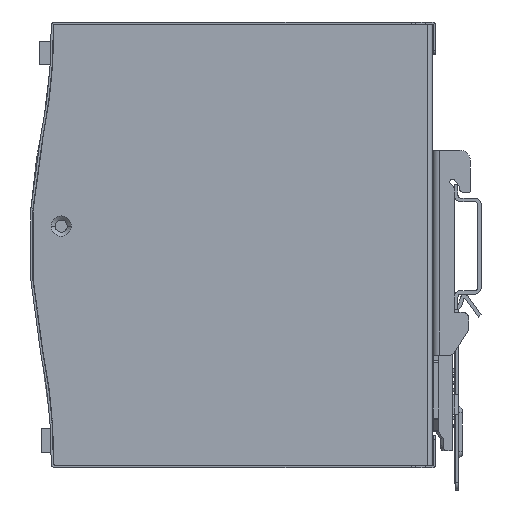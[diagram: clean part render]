
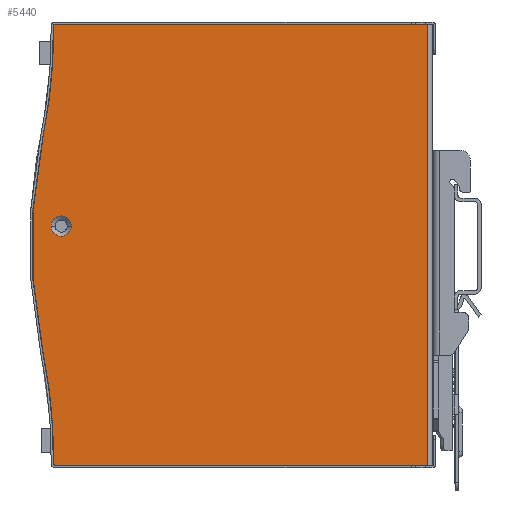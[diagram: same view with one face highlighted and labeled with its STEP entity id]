
A CAD part, front view. The second image highlights one B-rep face of the part: STEP entity #5440.
In plain terms, the highlighted planar face has unit normal (0, -1, 0).
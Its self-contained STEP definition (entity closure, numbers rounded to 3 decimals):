
#3930=CARTESIAN_POINT('',(95.953,13.236,-50.));
#3940=VERTEX_POINT('',#3930);
#3970=CARTESIAN_POINT('',(95.953,13.236,74.));
#3980=DIRECTION('',(0.,0.,-1.));
#3990=VECTOR('',#3980,124.);
#4000=LINE('',#3970,#3990);
#4010=CARTESIAN_POINT('',(95.953,13.236,74.));
#4020=VERTEX_POINT('',#4010);
#4030=EDGE_CURVE('',#4020,#3940,#4000,.T.);
#4620=CARTESIAN_POINT('',(-13.667,13.236,0.));
#4630=DIRECTION('',(0.,-1.,0.));
#4640=DIRECTION('',(0.,0.,-1.));
#4650=AXIS2_PLACEMENT_3D('',#4620,#4630,#4640);
#4660=PLANE('',#4650);
#4670=CARTESIAN_POINT('',(-8.439,13.236,-49.5));
#4680=DIRECTION('',(0.,-1.,0.));
#4690=DIRECTION('',(-1.,0.,0.));
#4700=AXIS2_PLACEMENT_3D('',#4670,#4680,#4690);
#4710=CIRCLE('',#4700,0.5);
#4720=CARTESIAN_POINT('',(-8.939,13.236,-49.495))
;
#4730=VERTEX_POINT('',#4720);
#4740=CARTESIAN_POINT('',(-8.439,13.236,-50.));
#4750=VERTEX_POINT('',#4740);
#4760=EDGE_CURVE('',#4730,#4750,#4710,.T.);
#4770=ORIENTED_EDGE('',*,*,#4760,.T.);
#4780=CARTESIAN_POINT('',(-158.932,13.236,-48.019)
);
#4790=DIRECTION('',(0.,-1.,0.));
#4800=DIRECTION('',(0.,0.,-1.));
#4810=AXIS2_PLACEMENT_3D('',#4780,#4790,#4800);
#4820=CIRCLE('',#4810,150.);
#4830=CARTESIAN_POINT('',(-11.964,13.236,-18.01)
);
#4840=VERTEX_POINT('',#4830);
#4850=EDGE_CURVE('',#4730,#4840,#4820,.T.);
#4860=ORIENTED_EDGE('',*,*,#4850,.F.);
#4870=CARTESIAN_POINT('',(135.003,13.236,12.));
#4880=DIRECTION('',(0.,-1.,0.));
#4890=DIRECTION('',(0.,0.,-1.));
#4900=AXIS2_PLACEMENT_3D('',#4870,#4880,#4890);
#4910=CIRCLE('',#4900,150.);
#4920=CARTESIAN_POINT('',(-11.964,13.236,42.01));
#4930=VERTEX_POINT('',#4920);
#4940=EDGE_CURVE('',#4930,#4840,#4910,.T.);
#4950=ORIENTED_EDGE('',*,*,#4940,.T.);
#4960=CARTESIAN_POINT('',(-158.932,13.236,72.019))
;
#4970=DIRECTION('',(0.,-1.,0.));
#4980=DIRECTION('',(0.,0.,-1.));
#4990=AXIS2_PLACEMENT_3D('',#4960,#4970,#4980);
#5000=CIRCLE('',#4990,150.);
#5010=CARTESIAN_POINT('',(-8.939,13.236,73.495));
#5020=VERTEX_POINT('',#5010);
#5030=EDGE_CURVE('',#4930,#5020,#5000,.T.);
#5040=ORIENTED_EDGE('',*,*,#5030,.F.);
#5050=CARTESIAN_POINT('',(-8.439,13.236,73.5));
#5060=DIRECTION('',(0.,-1.,0.));
#5070=DIRECTION('',(-1.,0.,0.));
#5080=AXIS2_PLACEMENT_3D('',#5050,#5060,#5070);
#5090=CIRCLE('',#5080,0.5);
#5100=CARTESIAN_POINT('',(-8.439,13.236,74.));
#5110=VERTEX_POINT('',#5100);
#5120=EDGE_CURVE('',#5110,#5020,#5090,.T.);
#5130=ORIENTED_EDGE('',*,*,#5120,.T.);
#5140=CARTESIAN_POINT('',(95.953,13.236,74.));
#5150=DIRECTION('',(-1.,0.,0.));
#5160=VECTOR('',#5150,104.392);
#5170=LINE('',#5140,#5160);
#5180=EDGE_CURVE('',#4020,#5110,#5170,.T.);
#5190=ORIENTED_EDGE('',*,*,#5180,.T.);
#5200=ORIENTED_EDGE('',*,*,#4030,.F.);
#5210=CARTESIAN_POINT('',(95.953,13.236,-50.));
#5220=DIRECTION('',(-1.,0.,0.));
#5230=VECTOR('',#5220,104.392);
#5240=LINE('',#5210,#5230);
#5250=EDGE_CURVE('',#3940,#4750,#5240,.T.);
#5260=ORIENTED_EDGE('',*,*,#5250,.F.);
#5270=EDGE_LOOP('',(#5260,#5200,#5190,#5130,#5040,#4950,#4860,#4770));
#5280=FACE_OUTER_BOUND('',#5270,.T.);
#5290=CARTESIAN_POINT('',(-6.847,13.236,17.25))
;
#5300=DIRECTION('',(0.,1.,0.));
#5310=DIRECTION('',(-1.,0.,0.));
#5320=AXIS2_PLACEMENT_3D('',#5290,#5300,#5310);
#5330=CIRCLE('',#5320,2.85);
#5340=CARTESIAN_POINT('',(-3.997,13.236,17.25))
;
#5350=VERTEX_POINT('',#5340);
#5360=CARTESIAN_POINT('',(-9.697,13.236,17.25))
;
#5370=VERTEX_POINT('',#5360);
#5380=EDGE_CURVE('',#5350,#5370,#5330,.T.);
#5390=ORIENTED_EDGE('',*,*,#5380,.T.);
#5400=EDGE_CURVE('',#5370,#5350,#5330,.T.);
#5410=ORIENTED_EDGE('',*,*,#5400,.T.);
#5420=EDGE_LOOP('',(#5410,#5390));
#5430=FACE_BOUND('',#5420,.T.);
#5440=ADVANCED_FACE('',(#5280,#5430),#4660,.T.);
